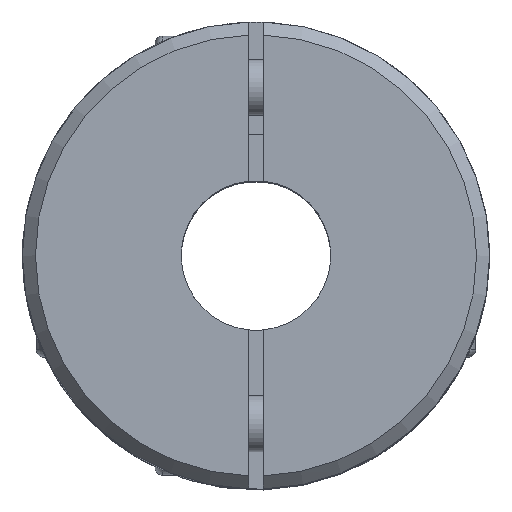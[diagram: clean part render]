
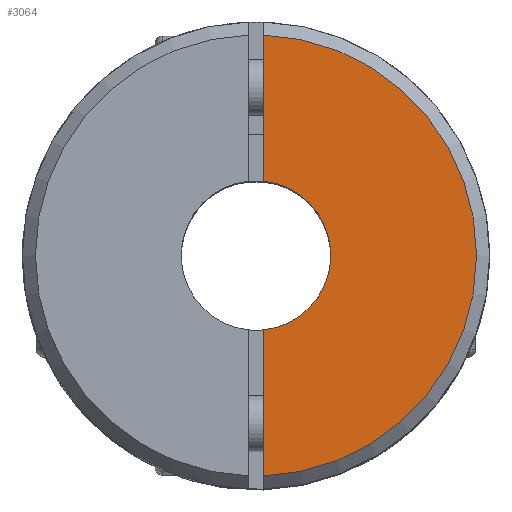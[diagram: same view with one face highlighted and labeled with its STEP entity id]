
A CAD part, top view. The second image highlights one B-rep face of the part: STEP entity #3064.
In plain terms, the highlighted planar face has unit normal (0, 0, 1).
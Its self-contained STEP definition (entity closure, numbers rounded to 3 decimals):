
#17 = DIRECTION ( 'NONE',  ( 0., 1., 0. ) ) ;
#51 = CARTESIAN_POINT ( 'NONE',  ( 0.4, 15., 15.5 ) ) ;
#53 = DIRECTION ( 'NONE',  ( 0., 0., 1. ) ) ;
#95 = VERTEX_POINT ( 'NONE', #2129 ) ;
#119 = CARTESIAN_POINT ( 'NONE',  ( 0., 4., 15.5 ) ) ;
#508 = CARTESIAN_POINT ( 'NONE',  ( 0.4, -3.98, 15.5 ) ) ;
#681 = EDGE_LOOP ( 'NONE', ( #3968, #1508, #4440, #4097 ) ) ;
#832 = DIRECTION ( 'NONE',  ( 0., -1., 0. ) ) ;
#858 = DIRECTION ( 'NONE',  ( 0., 1., 0. ) ) ;
#1107 = EDGE_CURVE ( 'NONE', #1644, #95, #1309, .T. ) ;
#1141 = LINE ( 'NONE', #51, #2816 ) ;
#1204 = DIRECTION ( 'NONE',  ( 0., -1., 0. ) ) ;
#1309 = CIRCLE ( 'NONE', #3311, 11.8 ) ;
#1478 = VERTEX_POINT ( 'NONE', #4081 ) ;
#1508 = ORIENTED_EDGE ( 'NONE', *, *, #1107, .T. ) ;
#1644 = VERTEX_POINT ( 'NONE', #3070 ) ;
#1795 = CARTESIAN_POINT ( 'NONE',  ( 0., 0., 15.5 ) ) ;
#1808 = CARTESIAN_POINT ( 'NONE',  ( 0.4, 15., 15.5 ) ) ;
#1861 = EDGE_CURVE ( 'NONE', #2282, #1644, #2927, .T. ) ;
#2107 = AXIS2_PLACEMENT_3D ( 'NONE', #119, #3882, #858 ) ;
#2129 = CARTESIAN_POINT ( 'NONE',  ( 0.4, 11.793, 15.5 ) ) ;
#2132 = CARTESIAN_POINT ( 'NONE',  ( 0., 0., 15.5 ) ) ;
#2134 = FACE_OUTER_BOUND ( 'NONE', #681, .T. ) ;
#2154 = VECTOR ( 'NONE', #1204, 1000. ) ;
#2240 = CIRCLE ( 'NONE', #2886, 4. ) ;
#2282 = VERTEX_POINT ( 'NONE', #508 ) ;
#2408 = EDGE_CURVE ( 'NONE', #95, #1478, #1141, .T. ) ;
#2816 = VECTOR ( 'NONE', #832, 1000. ) ;
#2844 = PLANE ( 'NONE',  #2107 ) ;
#2886 = AXIS2_PLACEMENT_3D ( 'NONE', #2132, #3951, #3208 ) ;
#2927 = LINE ( 'NONE', #1808, #2154 ) ;
#3064 = ADVANCED_FACE ( 'NONE', ( #2134 ), #2844, .F. ) ;
#3070 = CARTESIAN_POINT ( 'NONE',  ( 0.4, -11.793, 15.5 ) ) ;
#3208 = DIRECTION ( 'NONE',  ( 0., -1., 0. ) ) ;
#3311 = AXIS2_PLACEMENT_3D ( 'NONE', #1795, #53, #17 ) ;
#3882 = DIRECTION ( 'NONE',  ( 0., 0., -1. ) ) ;
#3951 = DIRECTION ( 'NONE',  ( 0., 0., 1. ) ) ;
#3968 = ORIENTED_EDGE ( 'NONE', *, *, #1861, .T. ) ;
#4081 = CARTESIAN_POINT ( 'NONE',  ( 0.4, 3.98, 15.5 ) ) ;
#4097 = ORIENTED_EDGE ( 'NONE', *, *, #4408, .F. ) ;
#4408 = EDGE_CURVE ( 'NONE', #2282, #1478, #2240, .T. ) ;
#4440 = ORIENTED_EDGE ( 'NONE', *, *, #2408, .T. ) ;
